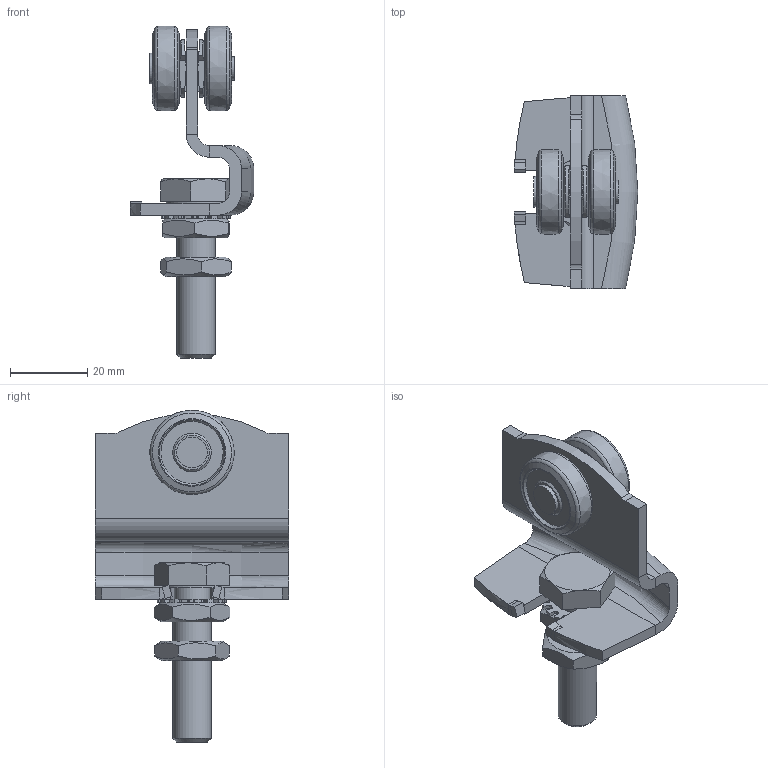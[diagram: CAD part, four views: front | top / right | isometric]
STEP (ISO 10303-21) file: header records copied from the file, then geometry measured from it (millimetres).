
FILE_DESCRIPTION(/* description */ ('Aufhaengehaken zu Einfachrolle Nr.0'),/* implementation_level */ '2;1');
FILE_NAME(/* name */ 'Q:\sge-ma\Produktmanagement-STB\STB\Workspace\stp\010330856.stp',/* time_stamp */ '2016-07-15T10:33:33+02:00',/* author */ ('avschreier'),/* organization */ (''),/* preprocessor_version */ 'ST-DEVELOPER v16.1',/* originating_system */ 'Autodesk Inventor 2016',/* authorisation */ '');
FILE_SCHEMA (('AUTOMOTIVE_DESIGN { 1 0 10303 214 3 1 1 }'));
Length unit declared in the file: millimetre
Products named in the file (8): 337000111; 336290000; 000303234; 000304010; DIN_6798-A_10,5_en; DIN_EN_ISO_4017-M10x40_en; DIN_EN_ISO_4035-M10_en; 010330856
Assembly tree (10 placements, depth 2):
  010330856
    337000111
    336290000  x2
    000303234  x2
    000304010
    DIN_6798-A_10,5_en
    DIN_EN_ISO_4017-M10x40_en
    DIN_EN_ISO_4035-M10_en  x2
Bounding box: 32 x 50 x 86 mm (x, y, z)
Volume: 22940.2 mm3; surface area: 16059 mm2
Topology: 10 solids, 10 shells, 282 faces, 711 edges, 458 vertices
Faces by surface type: plane 138, cylinder 97, cone 34, torus 9, bspline 4
Full cylindrical faces by diameter (mm): 6 x3, 6.1 x2, 8 x1, 8.376 x2, 9.188 x1, 10 x1, 10.5 x1, 15.4 x1
Entity records: 7658 total; most frequent: CARTESIAN_POINT 1745, DIRECTION 1262, ORIENTED_EDGE 1154, EDGE_CURVE 577, AXIS2_PLACEMENT_3D 475, VERTEX_POINT 388, LINE 312, VECTOR 312
